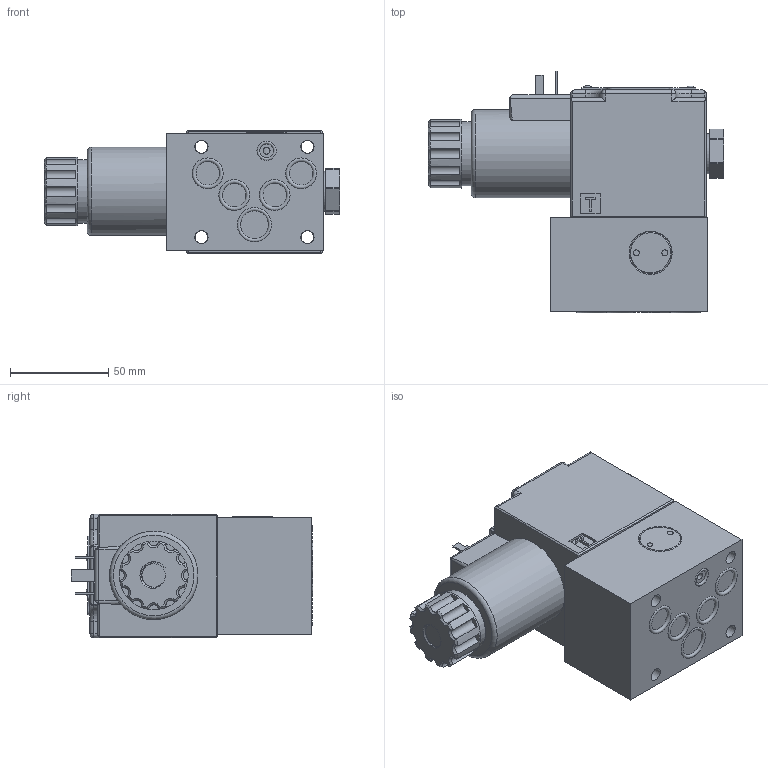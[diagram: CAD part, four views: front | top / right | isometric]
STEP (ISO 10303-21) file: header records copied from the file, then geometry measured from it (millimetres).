
FILE_DESCRIPTION(/* description */ (''),/* implementation_level */ '2;1');
FILE_NAME(/* name */ 'M-4SED10Y电磁球阀.prt.stp',/* time_stamp */ '2022-03-30T19:36:31+08:00',/* author */ (''),/* organization */ (''),/* preprocessor_version */ 'ST-DEVELOPER v16.7',/* originating_system */ 'SIEMENS PLM Software NX 12.0',/* authorisation */ '');
FILE_SCHEMA (('AUTOMOTIVE_DESIGN { 1 0 10303 214 3 1 1 1 }'));
Length unit declared in the file: millimetre
Products named in the file (1): M-4SED10Y电磁球阀
Bounding box: 150.6 x 123.03 x 63 mm (x, y, z)
Volume: 532335.7 mm3; surface area: 104521.6 mm2
Topology: 24 solids, 33 shells, 645 faces, 1563 edges, 972 vertices
Faces by surface type: cylinder 236, plane 210, cone 51, extrusion 51, torus 47, bspline 32, sphere 18
Full cylindrical faces by diameter (mm): 1.5 x1, 1.8 x4, 2 x8, 2.5 x1, 2.55 x19, 3 x3, 3.5 x2, 4 x1, 5 x1, 6.4 x4, 6.7 x4, 7 x1, 8 x3, 9.8 x1, 10 x1, 11 x5, 15.7 x8, 17.4 x2, 17.5 x1, 18 x1, 18.3 x1, 20.5 x4, 22 x1, 23 x2, 24 x1, 32.5 x1, 35 x1, 45 x1
Entity records: 29961 total; most frequent: CARTESIAN_POINT 15194, DIRECTION 2621, ORIENTED_EDGE 2620, EDGE_CURVE 1310, AXIS2_PLACEMENT_3D 1031, VERTEX_POINT 894, EDGE_LOOP 776, ADVANCED_FACE 626
